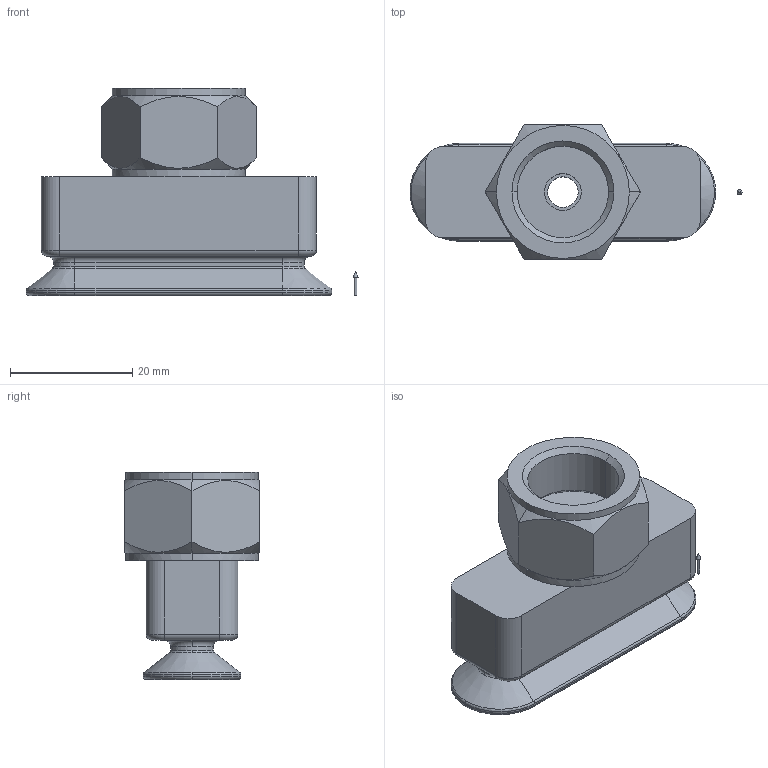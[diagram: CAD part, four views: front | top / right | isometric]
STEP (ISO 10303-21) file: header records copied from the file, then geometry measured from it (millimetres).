
FILE_DESCRIPTION(('STEP AP214'),'1');
FILE_NAME('10_01_05_00518.stp','2020-10-24T00:37:08',('TraceParts'),('TraceParts S.A.'),'Spatial InterOp 3D',' ',' ');
FILE_SCHEMA(('AUTOMOTIVE_DESIGN { 1 0 10303 214 1 1 1 1 }'));
Length unit declared in the file: millimetre
Products named in the file (1): 10_01_05_00518_1
Bounding box: 54.3 x 22 x 34 mm (x, y, z)
Volume: 13880.7 mm3; surface area: 6258.6 mm2
Topology: 2 solids, 2 shells, 110 faces, 244 edges, 139 vertices
Faces by surface type: cylinder 36, plane 34, torus 24, cone 16
Entity records: 3890 total; most frequent: DIRECTION 582, CARTESIAN_POINT 517, ORIENTED_EDGE 484, EDGE_CURVE 242, AXIS2_PLACEMENT_3D 240, VERTEX_POINT 139, CIRCLE 128, EDGE_LOOP 115
